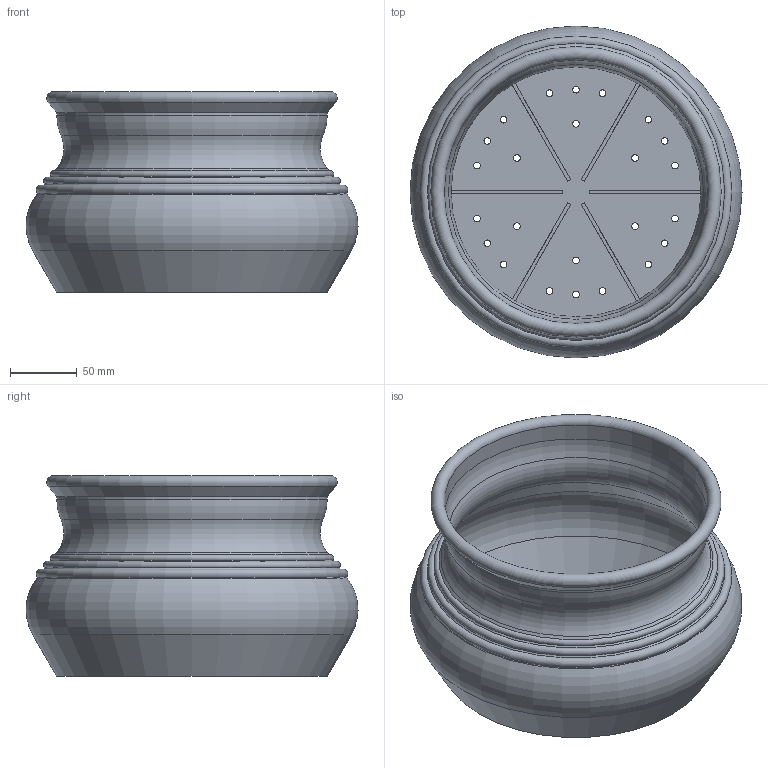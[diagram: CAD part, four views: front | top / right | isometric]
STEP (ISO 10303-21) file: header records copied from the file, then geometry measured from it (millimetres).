
FILE_DESCRIPTION(/* description */ (''),/* implementation_level */ '2;1');
FILE_NAME(/* name */ 'LR2406-S25-H150-D250_step.step',/* time_stamp */ '2024-02-01T10:58:59+01:00',/* author */ (''),/* organization */ (''),/* preprocessor_version */ 'ST-DEVELOPER v20',/* originating_system */ 'Autodesk Translation Framework v12.20.1.177',/* authorisation */ '');
FILE_SCHEMA (('AUTOMOTIVE_DESIGN { 1 0 10303 214 3 1 1 }'));
Length unit declared in the file: millimetre
Products named in the file (1): LR2406-S25-H150-D250
Bounding box: 247.99 x 247.99 x 150 mm (x, y, z)
Volume: 404568 mm3; surface area: 300176.4 mm2
Topology: 1 solids, 1 shells, 70 faces, 185 edges, 117 vertices
Faces by surface type: cylinder 32, plane 20, torus 10, cone 8
Full cylindrical faces by diameter (mm): 5 x24, 197 x1, 202 x1
Entity records: 2336 total; most frequent: DIRECTION 430, CARTESIAN_POINT 373, ORIENTED_EDGE 370, EDGE_CURVE 185, AXIS2_PLACEMENT_3D 174, EDGE_LOOP 118, VERTEX_POINT 117, CIRCLE 103
